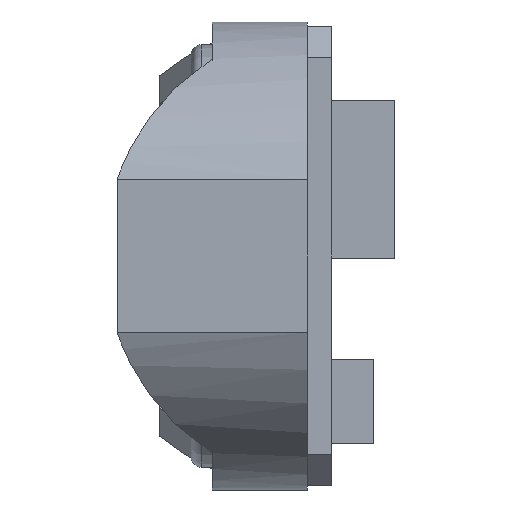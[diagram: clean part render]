
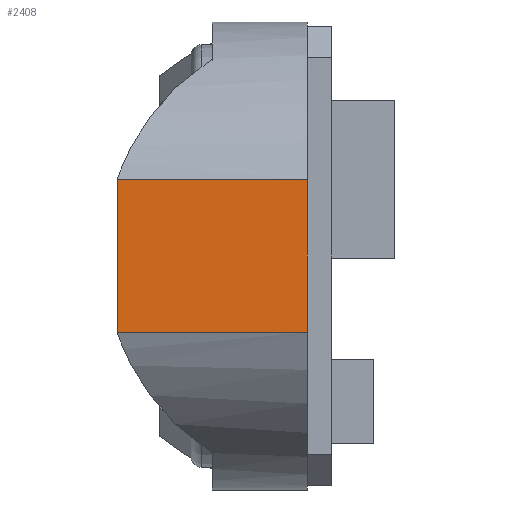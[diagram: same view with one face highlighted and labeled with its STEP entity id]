
A CAD part, left-side view. The second image highlights one B-rep face of the part: STEP entity #2408.
In plain terms, the highlighted planar face has unit normal (-1, 0, 0).
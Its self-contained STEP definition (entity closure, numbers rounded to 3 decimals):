
#175 = ORIENTED_EDGE ( 'NONE', *, *, #1384, .T. ) ;
#257 = LINE ( 'NONE', #2713, #270 ) ;
#270 = VECTOR ( 'NONE', #2633, 1000. ) ;
#285 = LINE ( 'NONE', #2729, #286 ) ;
#286 = VECTOR ( 'NONE', #2687, 1000. ) ;
#402 = VERTEX_POINT ( 'NONE', #667 ) ;
#442 = VERTEX_POINT ( 'NONE', #506 ) ;
#445 = VERTEX_POINT ( 'NONE', #677 ) ;
#447 = VERTEX_POINT ( 'NONE', #679 ) ;
#506 = CARTESIAN_POINT ( 'NONE',  ( -11.625, 10.15, 3.625 ) ) ;
#667 = CARTESIAN_POINT ( 'NONE',  ( -11.625, 10.15, -3.625 ) ) ;
#677 = CARTESIAN_POINT ( 'NONE',  ( -11.625, 1.15, -3.625 ) ) ;
#679 = CARTESIAN_POINT ( 'NONE',  ( -11.625, 1.15, 3.625 ) ) ;
#921 = DIRECTION ( 'NONE',  ( 0., 0., -1. ) ) ;
#923 = DIRECTION ( 'NONE',  ( 1., 0., 0. ) ) ;
#924 = CARTESIAN_POINT ( 'NONE',  ( -11.625, 10.15, 0. ) ) ;
#925 = PLANE ( 'NONE',  #1333 ) ;
#1106 = ORIENTED_EDGE ( 'NONE', *, *, #1369, .F. ) ;
#1110 = ORIENTED_EDGE ( 'NONE', *, *, #1392, .F. ) ;
#1111 = ORIENTED_EDGE ( 'NONE', *, *, #1511, .T. ) ;
#1333 = AXIS2_PLACEMENT_3D ( 'NONE', #924, #923, #921 ) ;
#1369 = EDGE_CURVE ( 'NONE', #402, #442, #2569, .T. ) ;
#1384 = EDGE_CURVE ( 'NONE', #402, #445, #285, .T. ) ;
#1392 = EDGE_CURVE ( 'NONE', #442, #447, #257, .T. ) ;
#1511 = EDGE_CURVE ( 'NONE', #445, #447, #2024, .T. ) ;
#2024 = LINE ( 'NONE', #2268, #2025 ) ;
#2025 = VECTOR ( 'NONE', #2260, 1000. ) ;
#2260 = DIRECTION ( 'NONE',  ( 0., 0., 1. ) ) ;
#2268 = CARTESIAN_POINT ( 'NONE',  ( -11.625, 1.15, 0. ) ) ;
#2377 = EDGE_LOOP ( 'NONE', ( #1111, #1110, #1106, #175 ) ) ;
#2384 = FACE_OUTER_BOUND ( 'NONE', #2377, .T. ) ;
#2408 = ADVANCED_FACE ( 'NONE', ( #2384 ), #925, .F. ) ;
#2569 = LINE ( 'NONE', #2711, #2570 ) ;
#2570 = VECTOR ( 'NONE', #2708, 1000. ) ;
#2633 = DIRECTION ( 'NONE',  ( 0., -1., 0. ) ) ;
#2687 = DIRECTION ( 'NONE',  ( 0., -1., 0. ) ) ;
#2708 = DIRECTION ( 'NONE',  ( 0., 0., 1. ) ) ;
#2711 = CARTESIAN_POINT ( 'NONE',  ( -11.625, 10.15, 0. ) ) ;
#2713 = CARTESIAN_POINT ( 'NONE',  ( -11.625, 10.15, 3.625 ) ) ;
#2729 = CARTESIAN_POINT ( 'NONE',  ( -11.625, 10.15, -3.625 ) ) ;
